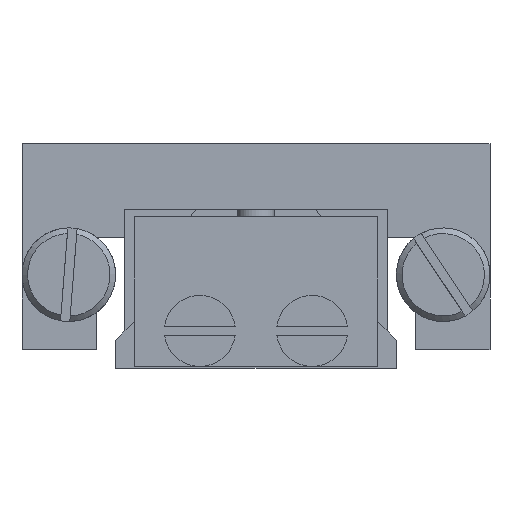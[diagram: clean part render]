
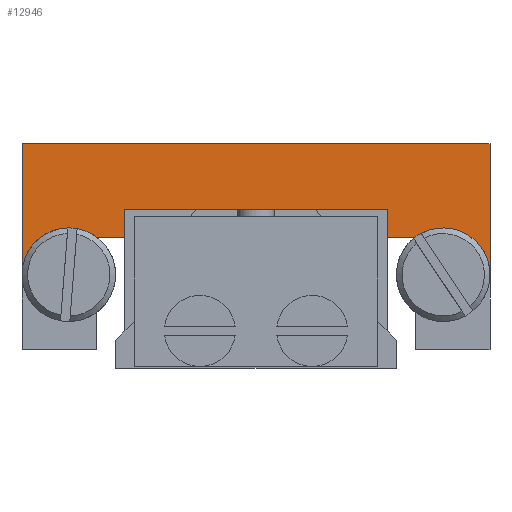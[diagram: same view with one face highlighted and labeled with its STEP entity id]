
A CAD part, front view. The second image highlights one B-rep face of the part: STEP entity #12946.
In plain terms, the highlighted planar face has unit normal (0, -1, 0).
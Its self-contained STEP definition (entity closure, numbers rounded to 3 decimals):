
#1157=FACE_OUTER_BOUND('',#1980,.T.);
#1980=EDGE_LOOP('',(#10184,#10185,#10186,#10187,#10188,#10189,#10190,#10191,
#10192,#10193));
#3094=LINE('',#19956,#4272);
#3095=LINE('',#19958,#4273);
#3096=LINE('',#19959,#4274);
#3097=LINE('',#19961,#4275);
#3098=LINE('',#19963,#4276);
#3099=LINE('',#19965,#4277);
#3100=LINE('',#19967,#4278);
#3101=LINE('',#19968,#4279);
#4272=VECTOR('',#16509,7.);
#4273=VECTOR('',#16510,25.);
#4274=VECTOR('',#16511,7.);
#4275=VECTOR('',#16512,1.5);
#4276=VECTOR('',#16513,1.5);
#4277=VECTOR('',#16514,14.);
#4278=VECTOR('',#16515,1.5);
#4279=VECTOR('',#16516,1.5);
#5048=CIRCLE('',#13960,2.5);
#5076=CIRCLE('',#14038,2.5);
#5687=VERTEX_POINT('',#19446);
#5701=VERTEX_POINT('',#19488);
#5760=VERTEX_POINT('',#19847);
#5773=VERTEX_POINT('',#19888);
#5779=VERTEX_POINT('',#19955);
#5780=VERTEX_POINT('',#19957);
#5781=VERTEX_POINT('',#19960);
#5782=VERTEX_POINT('',#19962);
#5783=VERTEX_POINT('',#19964);
#5784=VERTEX_POINT('',#19966);
#7253=EDGE_CURVE('',#5687,#5701,#5048,.T.);
#7359=EDGE_CURVE('',#5773,#5760,#5076,.T.);
#7369=EDGE_CURVE('',#5701,#5779,#3094,.T.);
#7370=EDGE_CURVE('',#5779,#5780,#3095,.T.);
#7371=EDGE_CURVE('',#5780,#5773,#3096,.T.);
#7372=EDGE_CURVE('',#5760,#5781,#3097,.T.);
#7373=EDGE_CURVE('',#5781,#5782,#3098,.T.);
#7374=EDGE_CURVE('',#5782,#5783,#3099,.T.);
#7375=EDGE_CURVE('',#5783,#5784,#3100,.T.);
#7376=EDGE_CURVE('',#5784,#5687,#3101,.T.);
#10184=ORIENTED_EDGE('',*,*,#7253,.T.);
#10185=ORIENTED_EDGE('',*,*,#7369,.T.);
#10186=ORIENTED_EDGE('',*,*,#7370,.T.);
#10187=ORIENTED_EDGE('',*,*,#7371,.T.);
#10188=ORIENTED_EDGE('',*,*,#7359,.T.);
#10189=ORIENTED_EDGE('',*,*,#7372,.T.);
#10190=ORIENTED_EDGE('',*,*,#7373,.T.);
#10191=ORIENTED_EDGE('',*,*,#7374,.T.);
#10192=ORIENTED_EDGE('',*,*,#7375,.T.);
#10193=ORIENTED_EDGE('',*,*,#7376,.T.);
#12339=PLANE('',#14047);
#12946=ADVANCED_FACE('',(#1157),#12339,.F.);
#13960=AXIS2_PLACEMENT_3D('',#19490,#16279,#16280);
#14038=AXIS2_PLACEMENT_3D('',#19889,#16486,#16487);
#14047=AXIS2_PLACEMENT_3D('',#19954,#16507,#16508);
#16279=DIRECTION('center_axis',(0.,1.,0.));
#16280=DIRECTION('ref_axis',(-0.832,0.,
-0.555));
#16486=DIRECTION('center_axis',(0.,1.,0.));
#16487=DIRECTION('ref_axis',(-0.997,0.,0.079));
#16507=DIRECTION('center_axis',(0.,1.,0.));
#16508=DIRECTION('ref_axis',(1.,0.,0.));
#16509=DIRECTION('',(0.,0.,1.));
#16510=DIRECTION('',(-1.,0.,0.));
#16511=DIRECTION('',(0.,0.,-1.));
#16512=DIRECTION('',(1.,0.,0.));
#16513=DIRECTION('',(0.,0.,1.));
#16514=DIRECTION('',(1.,0.,0.));
#16515=DIRECTION('',(0.,0.,-1.));
#16516=DIRECTION('',(1.,0.,0.));
#19446=CARTESIAN_POINT('',(21.229,-24.,17.311));
#19488=CARTESIAN_POINT('',(25.229,-24.,15.311));
#19490=CARTESIAN_POINT('Origin',(22.729,-24.,15.311));
#19847=CARTESIAN_POINT('',(4.229,-24.,17.311));
#19888=CARTESIAN_POINT('',(0.229,-24.,15.311));
#19889=CARTESIAN_POINT('Origin',(2.729,-24.,15.311));
#19954=CARTESIAN_POINT('Origin',(12.729,-24.,17.923));
#19955=CARTESIAN_POINT('',(25.229,-24.,22.311));
#19956=CARTESIAN_POINT('',(25.229,-24.,11.311));
#19957=CARTESIAN_POINT('',(0.229,-24.,22.311));
#19958=CARTESIAN_POINT('',(25.229,-24.,22.311));
#19959=CARTESIAN_POINT('',(0.229,-24.,22.311));
#19960=CARTESIAN_POINT('',(5.729,-24.,17.311));
#19961=CARTESIAN_POINT('',(4.229,-24.,17.311));
#19962=CARTESIAN_POINT('',(5.729,-24.,18.811));
#19963=CARTESIAN_POINT('',(5.729,-24.,17.311));
#19964=CARTESIAN_POINT('',(19.729,-24.,18.811));
#19965=CARTESIAN_POINT('',(5.729,-24.,18.811));
#19966=CARTESIAN_POINT('',(19.729,-24.,17.311));
#19967=CARTESIAN_POINT('',(19.729,-24.,18.811));
#19968=CARTESIAN_POINT('',(19.729,-24.,17.311));
